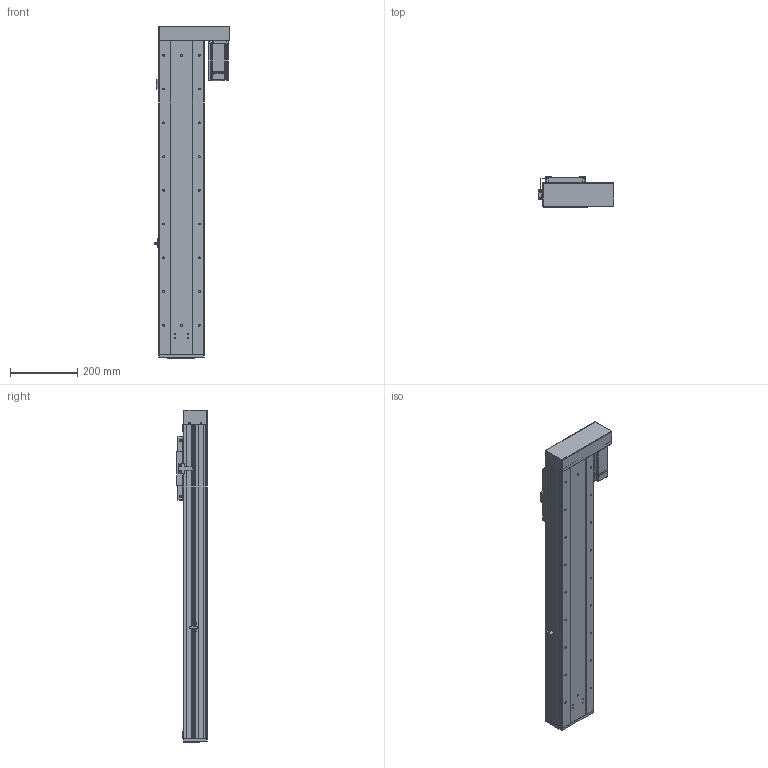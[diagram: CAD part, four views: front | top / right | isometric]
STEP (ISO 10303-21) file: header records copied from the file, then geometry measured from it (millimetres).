
FILE_DESCRIPTION (( 'STEP AP203' ), '1' );
FILE_NAME ('RY140F-L2020-300-RK.SLDASM_650.step', '2021-03-02T08:50:26', ( '盈信电脑' ), ( '东莞市道滘镇水果街19号' ), 'SwSTEP 2.0', 'SolidWorks 2012', '' );
FILE_SCHEMA (( 'CONFIG_CONTROL_DESIGN' ));
Products named in the file (19): RY140F-酘衵殏萇儂欶(400W); RY140F-L2020-300-RK.SLDASM_650; RY140F-左右折电机安装板(400W M5); RY140F-672覜茼んえ; RY140F-转折折电机座（7001）; 侐源滅袉蝶; RY140F-詩湍揤え; 15; RY140F-后盖板(铝件）; 侂狟400W侜督萇儂; 覜茼ん672; RY100F-詩湍揤踡謫; RY140F-直连型材铝滑块(16丝杆); RY140F-詩湍幗謫粣; RY140F-300-RK蛌殏詩湍_650; RY140F-300-RK倰第奻裔啣_650; RY140F-滅鳥奻裔; RY140F-直连型材铝滑块连接座; RY140F-300-RK倰第菁釱_650
Assembly tree (23 placements, depth 3):
  RY140F-L2020-300-RK.SLDASM_650
    RY140F-300-RK倰第菁釱_650
    RY140F-300-RK倰第奻裔啣_650  x2
    RY140F-300-RK蛌殏詩湍_650
    RY140F-直连型材铝滑块连接座
    RY140F-滅鳥奻裔
    RY140F-詩湍幗謫粣
    RY100F-詩湍揤踡謫
    RY140F-直连型材铝滑块(16丝杆)
    RY140F-后盖板(铝件）
    侂狟400W侜督萇儂
      15
    覜茼ん672
    RY140F-672覜茼んえ
    RY140F-詩湍揤え  x2
    侐源滅袉蝶  x4
    RY140F-转折折电机座（7001）
    RY140F-左右折电机安装板(400W M5)
    RY140F-酘衵殏萇儂欶(400W)
Bounding box: 224.7 x 91 x 984 mm (x, y, z)
Volume: 3943190.9 mm3; surface area: 1404504.7 mm2
Topology: 22 solids, 22 shells, 2041 faces, 5565 edges, 3528 vertices
Faces by surface type: cylinder 992, plane 789, cone 230, bspline 26, torus 4
Entity records: 64391 total; most frequent: CARTESIAN_POINT 13609, DIRECTION 10322, ORIENTED_EDGE 10010, EDGE_CURVE 5005, AXIS2_PLACEMENT_3D 3705, VERTEX_POINT 3268, LINE 2912, VECTOR 2912
